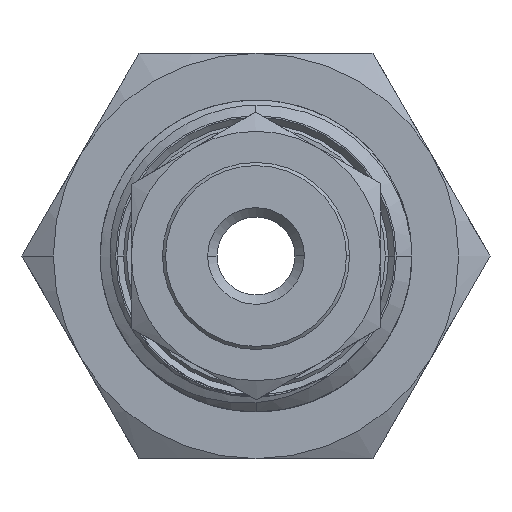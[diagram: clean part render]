
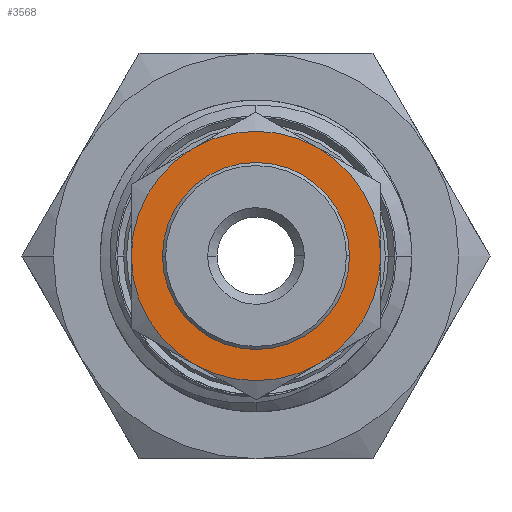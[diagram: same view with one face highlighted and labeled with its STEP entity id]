
A CAD part, front view. The second image highlights one B-rep face of the part: STEP entity #3568.
In plain terms, the highlighted planar face has unit normal (0, -1, 0).
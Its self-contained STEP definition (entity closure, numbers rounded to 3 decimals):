
#441 = ORIENTED_EDGE ( 'NONE', *, *, #6245, .T. ) ;
#444 = CARTESIAN_POINT ( 'NONE',  ( 1.987, -18.5, 3.472 ) ) ;
#519 = CARTESIAN_POINT ( 'NONE',  ( 0., -18.5, 0. ) ) ;
#745 = CARTESIAN_POINT ( 'NONE',  ( 0., -18.5, 0. ) ) ;
#823 = CARTESIAN_POINT ( 'NONE',  ( 0., -18.5, 0. ) ) ;
#854 = ORIENTED_EDGE ( 'NONE', *, *, #1416, .T. ) ;
#980 = EDGE_CURVE ( 'NONE', #1363, #7219, #4503, .T. ) ;
#1023 = CARTESIAN_POINT ( 'NONE',  ( 0., -18.5, 0. ) ) ;
#1133 = CARTESIAN_POINT ( 'NONE',  ( -2.013, -18.5, 3.456 ) ) ;
#1246 = EDGE_CURVE ( 'NONE', #2735, #13609, #4078, .T. ) ;
#1288 = CARTESIAN_POINT ( 'NONE',  ( -4., -18.5, -0.016 ) ) ;
#1363 = VERTEX_POINT ( 'NONE', #12510 ) ;
#1416 = EDGE_CURVE ( 'NONE', #13609, #2735, #1565, .T. ) ;
#1565 = CIRCLE ( 'NONE', #9576, 2.35 ) ;
#1681 = DIRECTION ( 'NONE',  ( -1., 0., -0.004 ) ) ;
#1944 = EDGE_CURVE ( 'NONE', #9491, #7781, #9666, .T. ) ;
#2017 = ORIENTED_EDGE ( 'NONE', *, *, #1246, .T. ) ;
#2092 = CARTESIAN_POINT ( 'NONE',  ( 4., -18.5, 0.016 ) ) ;
#2244 = AXIS2_PLACEMENT_3D ( 'NONE', #519, #2794, #2507 ) ;
#2507 = DIRECTION ( 'NONE',  ( 1., 0., 0.004 ) ) ;
#2735 = VERTEX_POINT ( 'NONE', #12594 ) ;
#2794 = DIRECTION ( 'NONE',  ( 0., 1., 0. ) ) ;
#3017 = DIRECTION ( 'NONE',  ( 0., -1., 0. ) ) ;
#3069 = DIRECTION ( 'NONE',  ( -0.497, 0., -0.868 ) ) ;
#3383 = ORIENTED_EDGE ( 'NONE', *, *, #6420, .T. ) ;
#3568 = ADVANCED_FACE ( 'NONE', ( #4715, #5939 ), #13638, .T. ) ;
#3594 = AXIS2_PLACEMENT_3D ( 'NONE', #7950, #7015, #3788 ) ;
#3788 = DIRECTION ( 'NONE',  ( 1., 0., 0.004 ) ) ;
#3888 = DIRECTION ( 'NONE',  ( 0.503, 0., -0.864 ) ) ;
#4072 = EDGE_LOOP ( 'NONE', ( #6817, #441, #3383, #11775, #14103, #7988 ) ) ;
#4077 = CIRCLE ( 'NONE', #7753, 4. ) ;
#4078 = CIRCLE ( 'NONE', #2244, 2.35 ) ;
#4150 = DIRECTION ( 'NONE',  ( 0., -1., 0. ) ) ;
#4387 = CARTESIAN_POINT ( 'NONE',  ( 0., -18.5, 0. ) ) ;
#4503 = CIRCLE ( 'NONE', #4829, 4. ) ;
#4715 = FACE_BOUND ( 'NONE', #10149, .T. ) ;
#4829 = AXIS2_PLACEMENT_3D ( 'NONE', #14073, #4150, #3069 ) ;
#5049 = DIRECTION ( 'NONE',  ( 0., -1., 0. ) ) ;
#5251 = DIRECTION ( 'NONE',  ( 0., -1., 0. ) ) ;
#5504 = AXIS2_PLACEMENT_3D ( 'NONE', #12887, #5049, #13678 ) ;
#5529 = AXIS2_PLACEMENT_3D ( 'NONE', #823, #9506, #13893 ) ;
#5939 = FACE_OUTER_BOUND ( 'NONE', #4072, .T. ) ;
#6245 = EDGE_CURVE ( 'NONE', #7781, #10888, #9182, .T. ) ;
#6413 = CIRCLE ( 'NONE', #7331, 4. ) ;
#6420 = EDGE_CURVE ( 'NONE', #10888, #13562, #4077, .T. ) ;
#6466 = DIRECTION ( 'NONE',  ( 0., -1., 0. ) ) ;
#6612 = DIRECTION ( 'NONE',  ( -0.503, 0., 0.864 ) ) ;
#6817 = ORIENTED_EDGE ( 'NONE', *, *, #1944, .T. ) ;
#7015 = DIRECTION ( 'NONE',  ( 0., -1., 0. ) ) ;
#7219 = VERTEX_POINT ( 'NONE', #8354 ) ;
#7331 = AXIS2_PLACEMENT_3D ( 'NONE', #745, #3017, #3888 ) ;
#7753 = AXIS2_PLACEMENT_3D ( 'NONE', #4387, #5251, #6612 ) ;
#7781 = VERTEX_POINT ( 'NONE', #444 ) ;
#7950 = CARTESIAN_POINT ( 'NONE',  ( 0., -18.5, 0. ) ) ;
#7988 = ORIENTED_EDGE ( 'NONE', *, *, #8860, .T. ) ;
#8349 = CARTESIAN_POINT ( 'NONE',  ( 0., -18.5, 0. ) ) ;
#8354 = CARTESIAN_POINT ( 'NONE',  ( 2.013, -18.5, -3.456 ) ) ;
#8860 = EDGE_CURVE ( 'NONE', #7219, #9491, #6413, .T. ) ;
#9182 = CIRCLE ( 'NONE', #5504, 4. ) ;
#9402 = CIRCLE ( 'NONE', #9855, 4. ) ;
#9491 = VERTEX_POINT ( 'NONE', #2092 ) ;
#9506 = DIRECTION ( 'NONE',  ( 0., -1., 0. ) ) ;
#9576 = AXIS2_PLACEMENT_3D ( 'NONE', #8349, #11519, #1681 ) ;
#9666 = CIRCLE ( 'NONE', #5529, 4. ) ;
#9855 = AXIS2_PLACEMENT_3D ( 'NONE', #1023, #6466, #10854 ) ;
#10149 = EDGE_LOOP ( 'NONE', ( #2017, #854 ) ) ;
#10265 = CARTESIAN_POINT ( 'NONE',  ( -2.35, -18.5, -0.009 ) ) ;
#10854 = DIRECTION ( 'NONE',  ( -1., 0., -0.004 ) ) ;
#10888 = VERTEX_POINT ( 'NONE', #1133 ) ;
#11519 = DIRECTION ( 'NONE',  ( 0., 1., 0. ) ) ;
#11775 = ORIENTED_EDGE ( 'NONE', *, *, #12260, .T. ) ;
#12260 = EDGE_CURVE ( 'NONE', #13562, #1363, #9402, .T. ) ;
#12510 = CARTESIAN_POINT ( 'NONE',  ( -1.987, -18.5, -3.472 ) ) ;
#12594 = CARTESIAN_POINT ( 'NONE',  ( 2.35, -18.5, 0.009 ) ) ;
#12887 = CARTESIAN_POINT ( 'NONE',  ( 0., -18.5, 0. ) ) ;
#13562 = VERTEX_POINT ( 'NONE', #1288 ) ;
#13609 = VERTEX_POINT ( 'NONE', #10265 ) ;
#13638 = PLANE ( 'NONE',  #3594 ) ;
#13678 = DIRECTION ( 'NONE',  ( 0.497, 0., 0.868 ) ) ;
#13893 = DIRECTION ( 'NONE',  ( 1., 0., 0.004 ) ) ;
#14073 = CARTESIAN_POINT ( 'NONE',  ( 0., -18.5, 0. ) ) ;
#14103 = ORIENTED_EDGE ( 'NONE', *, *, #980, .T. ) ;
